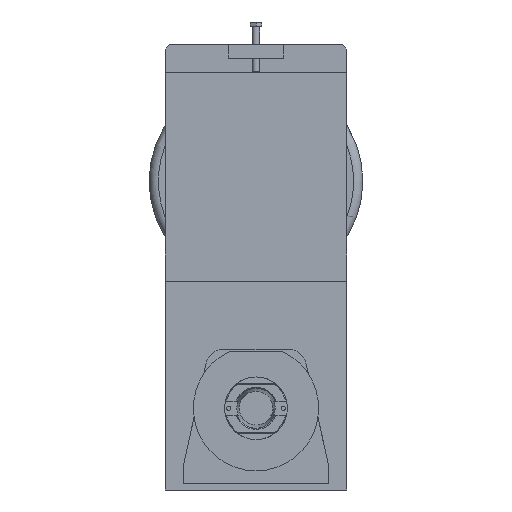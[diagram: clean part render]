
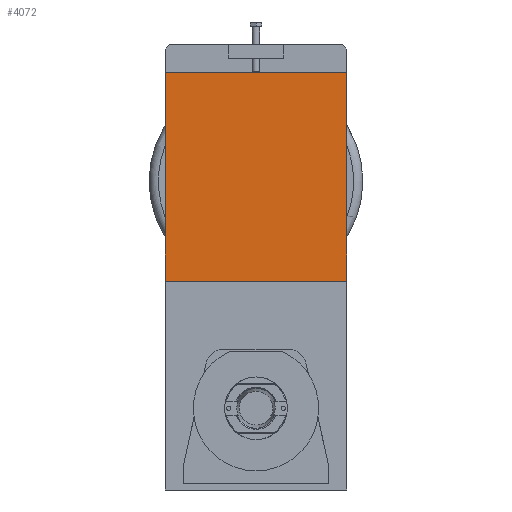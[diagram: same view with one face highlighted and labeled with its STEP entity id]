
A CAD part, front view. The second image highlights one B-rep face of the part: STEP entity #4072.
In plain terms, the highlighted planar face has unit normal (0, -1, 0).
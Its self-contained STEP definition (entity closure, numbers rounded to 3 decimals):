
#4016=CARTESIAN_POINT('',(100.,-2.,140.0));
#4017=VERTEX_POINT('',#4016);
#4018=CARTESIAN_POINT('',(-100.,-2.,140.));
#4019=VERTEX_POINT('',#4018);
#4020=CARTESIAN_POINT('',(100.,-2.,140.0));
#4021=DIRECTION('',(-1.0,0.0,0.0));
#4022=VECTOR('',#4021,200.);
#4023=LINE('',#4020,#4022);
#4024=EDGE_CURVE('',#4017,#4019,#4023,.T.);
#4042=CARTESIAN_POINT('',(0.,-2.,255.));
#4043=DIRECTION('',(0.0,-1.0,0.0));
#4044=DIRECTION('',(1.0,0.0,0.0));
#4045=AXIS2_PLACEMENT_3D('',#4042,#4043,#4044);
#4046=PLANE('',#4045);
#4047=CARTESIAN_POINT('',(-100.,-2.,370.0));
#4048=VERTEX_POINT('',#4047);
#4049=CARTESIAN_POINT('',(100.,-2.,370.0));
#4050=VERTEX_POINT('',#4049);
#4051=CARTESIAN_POINT('',(-100.,-2.,370.0));
#4052=DIRECTION('',(1.0,0.0,0.0));
#4053=VECTOR('',#4052,200.);
#4054=LINE('',#4051,#4053);
#4055=EDGE_CURVE('',#4048,#4050,#4054,.T.);
#4056=ORIENTED_EDGE('',*,*,#4055,.F.);
#4057=CARTESIAN_POINT('',(-100.,-2.,140.0));
#4058=DIRECTION('',(0.0,0.0,1.0));
#4059=VECTOR('',#4058,230.0);
#4060=LINE('',#4057,#4059);
#4061=EDGE_CURVE('',#4019,#4048,#4060,.T.);
#4062=ORIENTED_EDGE('',*,*,#4061,.F.);
#4063=ORIENTED_EDGE('',*,*,#4024,.F.);
#4064=CARTESIAN_POINT('',(100.,-2.,370.0));
#4065=DIRECTION('',(0.0,0.0,-1.0));
#4066=VECTOR('',#4065,230.0);
#4067=LINE('',#4064,#4066);
#4068=EDGE_CURVE('',#4050,#4017,#4067,.T.);
#4069=ORIENTED_EDGE('',*,*,#4068,.F.);
#4070=EDGE_LOOP('',(#4056,#4062,#4063,#4069));
#4071=FACE_OUTER_BOUND('',#4070,.T.);
#4072=ADVANCED_FACE('',(#4071),#4046,.T.);
